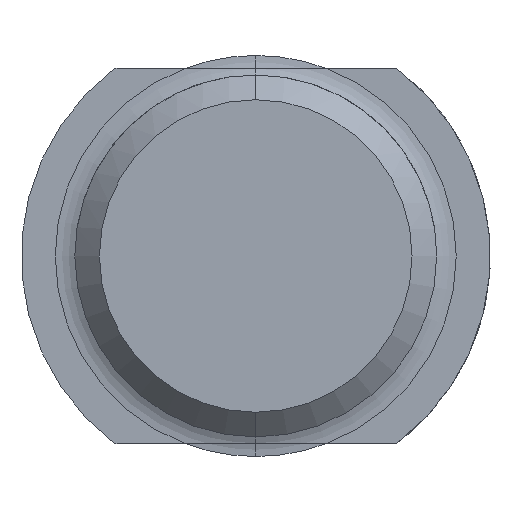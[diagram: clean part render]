
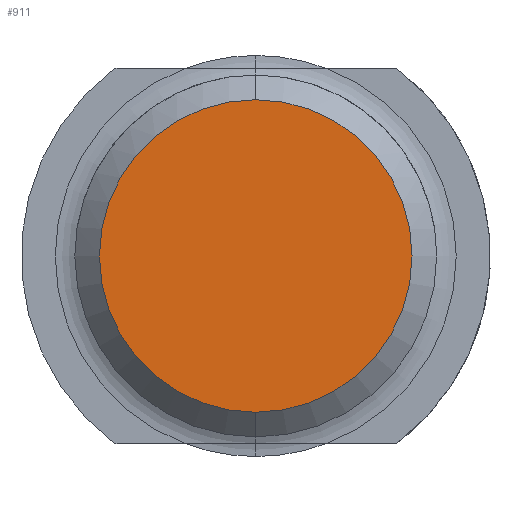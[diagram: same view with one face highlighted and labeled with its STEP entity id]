
A CAD part, left-side view. The second image highlights one B-rep face of the part: STEP entity #911.
In plain terms, the highlighted planar face has unit normal (-1, 0, 0).
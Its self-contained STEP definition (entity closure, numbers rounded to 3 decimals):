
#771=CARTESIAN_POINT('Vertex',(-35.,0.,11.66)) ;
#774=CARTESIAN_POINT('Axis2P3D Location',(-35.,0.,0.)) ;
#778=CARTESIAN_POINT('Vertex',(-35.,-11.66,0.)) ;
#781=CARTESIAN_POINT('Axis2P3D Location',(-35.,0.,0.)) ;
#785=CARTESIAN_POINT('Vertex',(-35.,0.,-11.66)) ;
#807=CARTESIAN_POINT('Axis2P3D Location',(-35.,0.,0.)) ;
#811=CARTESIAN_POINT('Vertex',(-35.,11.66,0.)) ;
#814=CARTESIAN_POINT('Axis2P3D Location',(-35.,0.,0.)) ;
#900=CARTESIAN_POINT('Axis2P3D Location',(-35.,0.,0.)) ;
#775=DIRECTION('Axis2P3D Direction',(1.,0.,-0.)) ;
#782=DIRECTION('Axis2P3D Direction',(1.,0.,-0.)) ;
#808=DIRECTION('Axis2P3D Direction',(1.,0.,-0.)) ;
#815=DIRECTION('Axis2P3D Direction',(1.,0.,-0.)) ;
#901=DIRECTION('Axis2P3D Direction',(1.,0.,-0.)) ;
#902=DIRECTION('Axis2P3D XDirection',(-0.,0.,-1.)) ;
#776=AXIS2_PLACEMENT_3D('Circle Axis2P3D',#774,#775,$) ;
#783=AXIS2_PLACEMENT_3D('Circle Axis2P3D',#781,#782,$) ;
#809=AXIS2_PLACEMENT_3D('Circle Axis2P3D',#807,#808,$) ;
#816=AXIS2_PLACEMENT_3D('Circle Axis2P3D',#814,#815,$) ;
#903=AXIS2_PLACEMENT_3D('Plane Axis2P3D',#900,#901,#902) ;
#906=ORIENTED_EDGE('',*,*,#813,.F.) ;
#907=ORIENTED_EDGE('',*,*,#787,.F.) ;
#908=ORIENTED_EDGE('',*,*,#780,.F.) ;
#909=ORIENTED_EDGE('',*,*,#818,.F.) ;
#911=ADVANCED_FACE('AGS3411M27',(#910),#904,.F.) ;
#777=CIRCLE('generated circle',#776,11.66) ;
#784=CIRCLE('generated circle',#783,11.66) ;
#810=CIRCLE('generated circle',#809,11.66) ;
#817=CIRCLE('generated circle',#816,11.66) ;
#780=EDGE_CURVE('',#772,#779,#777,.T.) ;
#787=EDGE_CURVE('',#779,#786,#784,.T.) ;
#813=EDGE_CURVE('',#786,#812,#810,.T.) ;
#818=EDGE_CURVE('',#812,#772,#817,.T.) ;
#905=EDGE_LOOP('',(#906,#907,#908,#909)) ;
#910=FACE_OUTER_BOUND('',#905,.T.) ;
#904=PLANE('Plane',#903) ;
#772=VERTEX_POINT('',#771) ;
#779=VERTEX_POINT('',#778) ;
#786=VERTEX_POINT('',#785) ;
#812=VERTEX_POINT('',#811) ;
